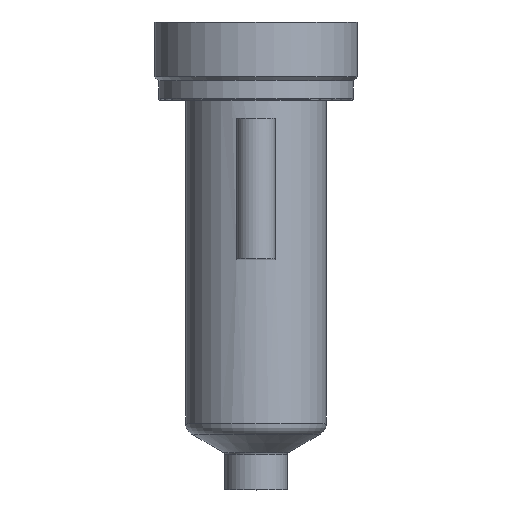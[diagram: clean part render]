
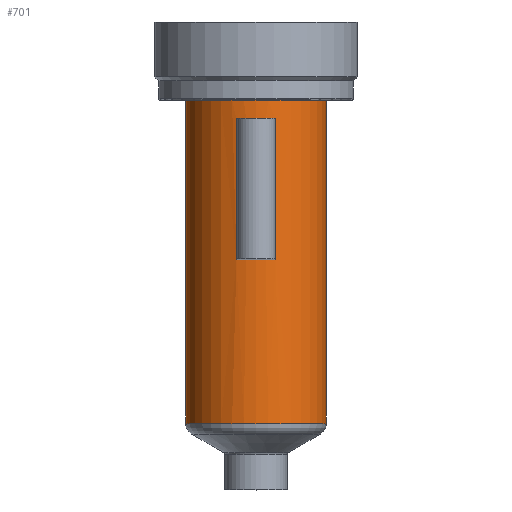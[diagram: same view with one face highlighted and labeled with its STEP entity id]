
A CAD part, top view. The second image highlights one B-rep face of the part: STEP entity #701.
In plain terms, the highlighted cylindrical face has radius 9 mm (diameter 18 mm), a partial arc.
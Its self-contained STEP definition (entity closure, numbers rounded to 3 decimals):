
#193=DIRECTION('',(0.,-1.,0.));
#194=VECTOR('',#193,41.544);
#195=CARTESIAN_POINT('',(9.,0.,0.));
#196=LINE('',#195,#194);
#197=CARTESIAN_POINT('',(0.,-41.544,0.));
#198=DIRECTION('',(0.,1.,0.));
#199=DIRECTION('',(-1.,0.,0.));
#200=AXIS2_PLACEMENT_3D('',#197,#198,#199);
#202=DIRECTION('',(0.,1.,0.));
#203=VECTOR('',#202,41.544);
#204=CARTESIAN_POINT('',(-9.,-41.544,0.));
#205=LINE('',#204,#203);
#206=CARTESIAN_POINT('',(0.,0.,0.));
#207=DIRECTION('',(0.,1.,0.));
#208=DIRECTION('',(-1.,0.,0.));
#209=AXIS2_PLACEMENT_3D('',#206,#207,#208);
#211=DIRECTION('',(0.,-1.,0.));
#212=VECTOR('',#211,18.);
#213=CARTESIAN_POINT('',(-2.5,-2.5,8.646));
#214=LINE('',#213,#212);
#215=DIRECTION('',(0.,1.,0.));
#216=VECTOR('',#215,18.);
#217=CARTESIAN_POINT('',(2.5,-20.5,8.646));
#218=LINE('',#217,#216);
#299=CARTESIAN_POINT('',(0.,-2.5,0.));
#300=DIRECTION('',(0.,-1.,0.));
#301=DIRECTION('',(0.278,0.,0.961));
#302=AXIS2_PLACEMENT_3D('',#299,#300,#301);
#317=CARTESIAN_POINT('',(0.,-20.5,0.));
#318=DIRECTION('',(0.,1.,0.));
#319=DIRECTION('',(-0.278,0.,0.961));
#320=AXIS2_PLACEMENT_3D('',#317,#318,#319);
#396=CARTESIAN_POINT('',(-9.,0.,0.));
#397=CARTESIAN_POINT('',(9.,0.,0.));
#398=VERTEX_POINT('',#396);
#399=VERTEX_POINT('',#397);
#408=CARTESIAN_POINT('',(-2.5,-2.5,8.646));
#409=VERTEX_POINT('',#408);
#410=CARTESIAN_POINT('',(2.5,-2.5,8.646));
#411=VERTEX_POINT('',#410);
#448=CARTESIAN_POINT('',(9.,-41.544,0.));
#449=VERTEX_POINT('',#448);
#458=CARTESIAN_POINT('',(-9.,-41.544,0.));
#459=VERTEX_POINT('',#458);
#460=CARTESIAN_POINT('',(-2.5,-20.5,8.646));
#461=CARTESIAN_POINT('',(2.5,-20.5,8.646));
#462=VERTEX_POINT('',#460);
#463=VERTEX_POINT('',#461);
#679=CARTESIAN_POINT('',(0.,11.15,0.));
#680=DIRECTION('',(0.,-1.,0.));
#681=DIRECTION('',(-1.,0.,0.));
#682=AXIS2_PLACEMENT_3D('',#679,#680,#681);
#683=CYLINDRICAL_SURFACE('',#682,9.);
#684=ORIENTED_EDGE('',*,*,#673,.T.);
#686=ORIENTED_EDGE('',*,*,#685,.F.);
#687=ORIENTED_EDGE('',*,*,#669,.T.);
#688=ORIENTED_EDGE('',*,*,#659,.T.);
#689=EDGE_LOOP('',(#684,#686,#687,#688));
#690=FACE_OUTER_BOUND('',#689,.F.);
#692=ORIENTED_EDGE('',*,*,#691,.T.);
#694=ORIENTED_EDGE('',*,*,#693,.T.);
#696=ORIENTED_EDGE('',*,*,#695,.T.);
#698=ORIENTED_EDGE('',*,*,#697,.T.);
#699=EDGE_LOOP('',(#692,#694,#696,#698));
#700=FACE_BOUND('',#699,.F.);
#701=ADVANCED_FACE('',(#690,#700),#683,.T.);
#201=CIRCLE('',#200,9.);
#210=CIRCLE('',#209,9.);
#303=CIRCLE('',#302,9.);
#321=CIRCLE('',#320,9.);
#659=EDGE_CURVE('',#398,#399,#210,.T.);
#669=EDGE_CURVE('',#459,#398,#205,.T.);
#673=EDGE_CURVE('',#399,#449,#196,.T.);
#685=EDGE_CURVE('',#459,#449,#201,.T.);
#691=EDGE_CURVE('',#409,#462,#214,.T.);
#693=EDGE_CURVE('',#462,#463,#321,.T.);
#695=EDGE_CURVE('',#463,#411,#218,.T.);
#697=EDGE_CURVE('',#411,#409,#303,.T.);
